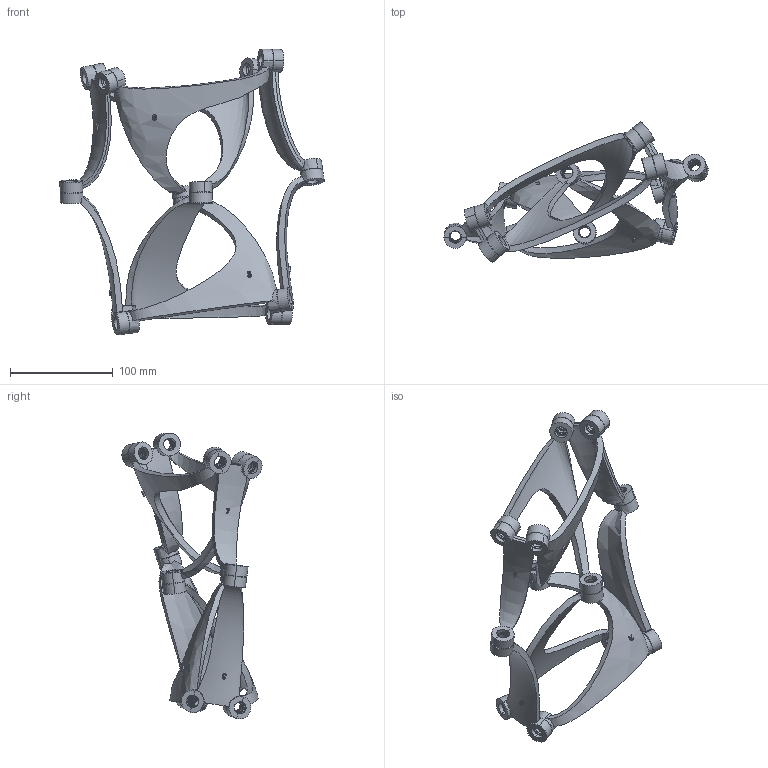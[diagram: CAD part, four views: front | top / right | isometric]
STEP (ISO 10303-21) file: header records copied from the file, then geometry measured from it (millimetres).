
FILE_DESCRIPTION(/* description */ (''),/* implementation_level */ '2;1');
FILE_NAME(/* name */ 'snapping-cube',/* time_stamp */ '2026-03-29T11:11:58+02:00',/* author */ (''),/* organization */ (''),/* preprocessor_version */ 'ST-DEVELOPER v19.2',/* originating_system */ 'Rhino 8.29',/* authorisation */ '');
FILE_SCHEMA (('CONFIG_CONTROL_DESIGN'));
Length unit declared in the file: millimetre
Products named in the file (1): Document
Bounding box: 256.9 x 136.12 x 277.96 mm (x, y, z)
Volume: 291168.9 mm3; surface area: 131057.7 mm2
Topology: 8 solids, 8 shells, 498 faces, 1171 edges, 678 vertices
Faces by surface type: bspline 498
Entity records: 76541 total; most frequent: CARTESIAN_POINT 59406, B_SPLINE_CURVE_WITH_KNOTS 3014, ORIENTED_EDGE 2340, PCURVE 2340, DEFINITIONAL_REPRESENTATION 2340, SURFACE_CURVE 1170, EDGE_CURVE 1170, DIRECTION 910
